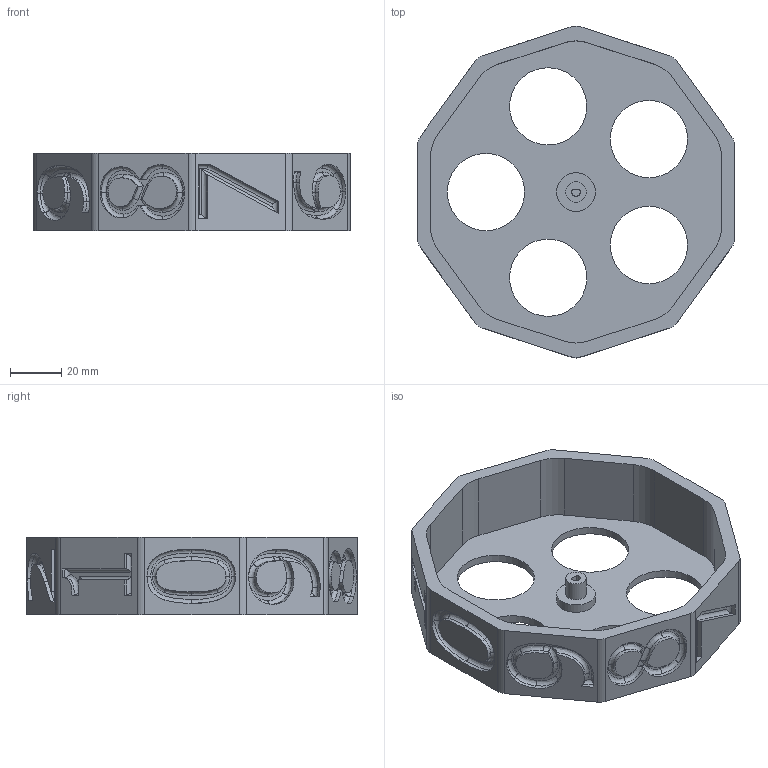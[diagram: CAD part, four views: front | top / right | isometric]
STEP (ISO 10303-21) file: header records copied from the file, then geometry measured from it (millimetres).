
FILE_DESCRIPTION(/* description */ (''),/* implementation_level */ '2;1');
FILE_NAME(/* name */ 'C:\Users\felldings\Documents\Inventor\fabacademy-final\digit_wheel.step',/* time_stamp */ '2018-06-09T14:54:20+02:00',/* author */ ('felldings'),/* organization */ (''),/* preprocessor_version */ 'ST-DEVELOPER v17',/* originating_system */ 'Autodesk Inventor 2019',/* authorisation */ '');
FILE_SCHEMA (('AUTOMOTIVE_DESIGN { 1 0 10303 214 3 1 1 }'));
Length unit declared in the file: millimetre
Products named in the file (1): digit_wheel
Bounding box: 123.11 x 128.93 x 30 mm (x, y, z)
Volume: 71725.8 mm3; surface area: 44733.2 mm2
Topology: 1 solids, 1 shells, 411 faces, 1033 edges, 640 vertices
Faces by surface type: bspline 226, plane 107, cylinder 78
Full cylindrical faces by diameter (mm): 6.4 x1, 7.9 x1, 15 x1, 30 x5
Entity records: 18531 total; most frequent: CARTESIAN_POINT 10060, ORIENTED_EDGE 2066, DIRECTION 1165, EDGE_CURVE 1033, VERTEX_POINT 640, EDGE_LOOP 437, LINE 425, VECTOR 425
